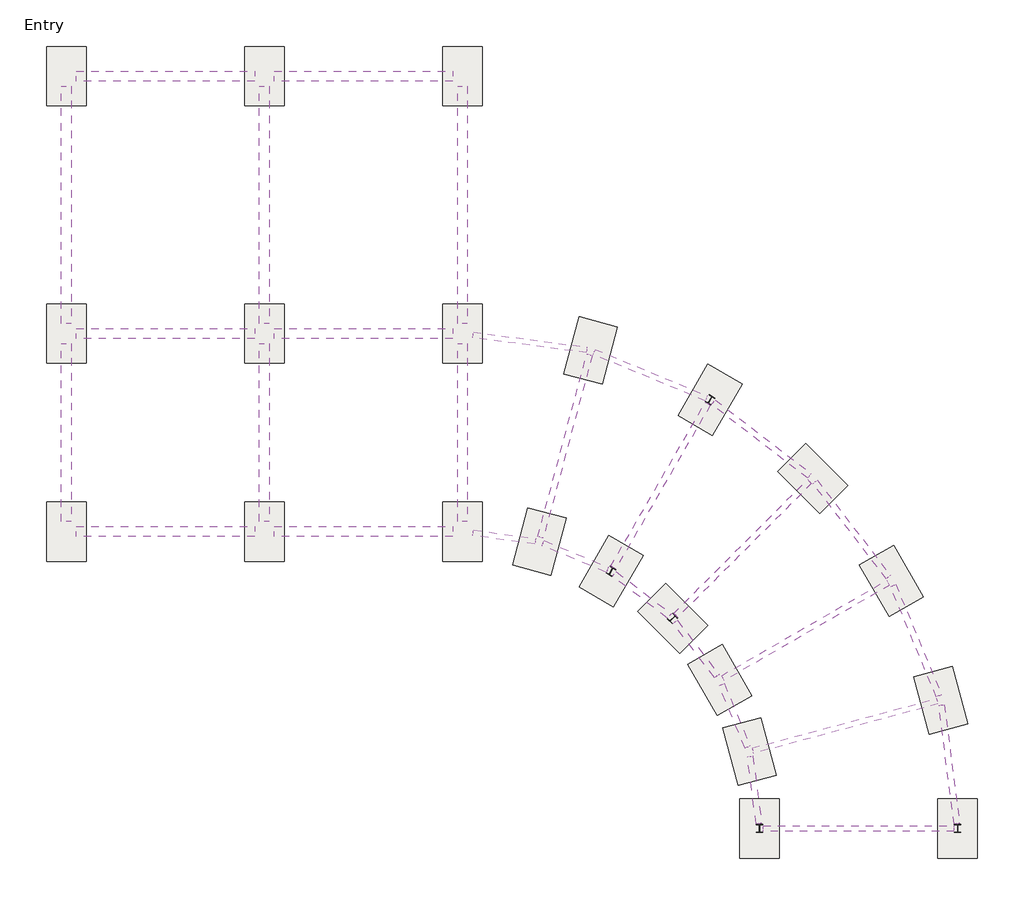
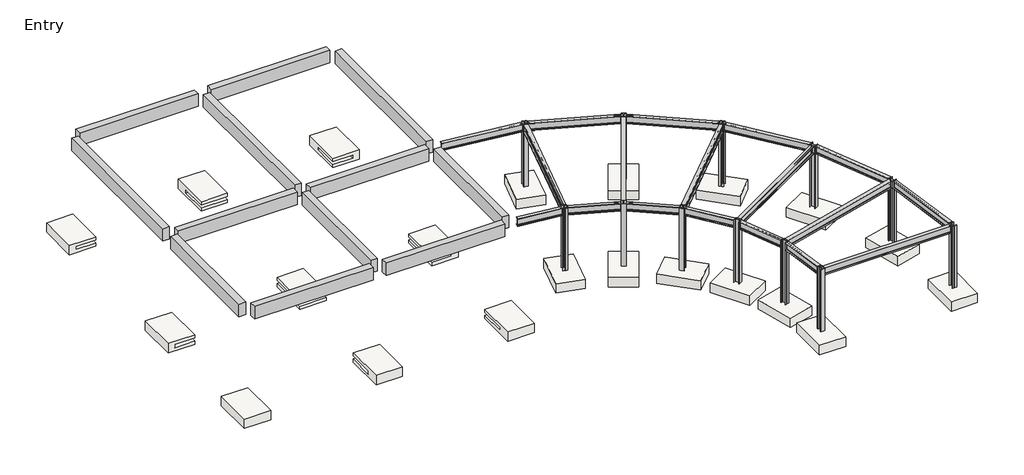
# One storey: 30 beams, 21 slabs, 12 columns.
"""IFC4 building model written with IfcOpenShell, lengths in millimetres."""

from ifc_helpers import new_model, si_unit, frame, origin, place, context, project, spatial, polyline, outline, extrude, faceted_brep, transform, mapped, element, save
from components import w_wide_flange_w14x30_b7c3a9b2, w_wide_flange_w14x30_3b0c1dc8, w_wide_flange_w14x30_f0d42ab2, w_wide_flange_w14x30_385d032e, w_wide_flange_w14x30_0234fe31, w_wide_flange_w14x30_92f4828e, w_wide_flange_w14x30_eb91477c, w_wide_flange_w14x30_84f72a9a, w_wide_flange_w14x30_4e58539d, w_wide_flange_w14x30_c5cff1d2, w_wide_flange_column_w10x33_7f7bc32a, slab_5ba74754

model = new_model("IFC4")

# Units and contexts
model_context = context("Model", 3, world=origin())
ifc_project = project(units=[si_unit("LENGTHUNIT", "METRE", prefix="MILLI")], contexts=[model_context])

# Site, building, storey
site = spatial("IfcSite", under=ifc_project)
building = spatial("IfcBuilding", under=site)
storey = spatial("IfcBuildingStorey", under=building, Name="Entry", Elevation=0.0)

# Beams
placement = place(None, origin())
element("IfcBeam", 1, ObjectType="Concrete-Rectangular Beam : 12 x 24", at=placement, inside=storey, context=model_context, shape_type="SweptSolid", body=[
    extrude(outline(polyline([(-28959.8783408, 12579.4963551), (-28959.8783408, 12274.6963551), (-34446.2783408, 12274.6963551), (-34446.2783408, 12579.4963551), (-28959.8783408, 12579.4963551)])), frame((0.0, 0.0, 2438.4), z_axis=(0.0, 0.0, 1.0), x_axis=(1.0, 0.0, 0.0)), (0.0, 0.0, 1.0), 609.6),
])
element("IfcBeam", 2, ObjectType="Concrete-Rectangular Beam : 12 x 24", at=placement, inside=storey, context=model_context, shape_type="SweptSolid", body=[
    extrude(outline(polyline([(-35055.8783408, 12579.4963551), (-35055.8783408, 12274.6963551), (-40542.2783408, 12274.6963551), (-40542.2783408, 12579.4963551), (-35055.8783408, 12579.4963551)])), frame((0.0, 0.0, 2438.4), z_axis=(0.0, 0.0, 1.0), x_axis=(1.0, 0.0, 0.0)), (0.0, 0.0, 1.0), 609.6),
])
element("IfcBeam", 3, ObjectType="Concrete-Rectangular Beam : 12 x 24", at=placement, inside=storey, context=model_context, shape_type="SweptSolid", body=[
    extrude(outline(polyline([(-40694.6783408, 4807.0963551), (-40999.4783408, 4807.0963551), (-40999.4783408, 12122.2963551), (-40694.6783408, 12122.2963551), (-40694.6783408, 4807.0963551)])), frame((0.0, 0.0, 2438.4), z_axis=(0.0, 0.0, 1.0), x_axis=(1.0, 0.0, 0.0)), (0.0, 0.0, 1.0), 609.6),
])
element("IfcBeam", 4, ObjectType="Concrete-Rectangular Beam : 12 x 24", at=placement, inside=storey, context=model_context, shape_type="SweptSolid", body=[
    extrude(outline(polyline([(-40999.4783408, 4197.4963551), (-40694.6783408, 4197.4963551), (-40694.6783408, -1288.9036449), (-40999.4783408, -1288.9036449), (-40999.4783408, 4197.4963551)])), frame((0.0, 0.0, 2438.4), z_axis=(0.0, 0.0, 1.0), x_axis=(1.0, 0.0, 0.0)), (0.0, 0.0, 1.0), 609.6),
])
element("IfcBeam", 5, ObjectType="Concrete-Rectangular Beam : 12 x 24", at=placement, inside=storey, context=model_context, shape_type="SweptSolid", body=[
    extrude(outline(polyline([(-28959.8783408, -1441.3036449), (-28959.8783408, -1746.1036449), (-34446.2783408, -1746.1036449), (-34446.2783408, -1441.3036449), (-28959.8783408, -1441.3036449)])), frame((0.0, 0.0, 2438.4), z_axis=(0.0, 0.0, 1.0), x_axis=(1.0, 0.0, 0.0)), (0.0, 0.0, 1.0), 609.6),
])
element("IfcBeam", 6, ObjectType="Concrete-Rectangular Beam : 12 x 24", at=placement, inside=storey, context=model_context, shape_type="SweptSolid", body=[
    extrude(outline(polyline([(-35055.8783408, -1441.3036449), (-35055.8783408, -1746.1036449), (-40542.2783408, -1746.1036449), (-40542.2783408, -1441.3036449), (-35055.8783408, -1441.3036449)])), frame((0.0, 0.0, 2438.4), z_axis=(0.0, 0.0, 1.0), x_axis=(1.0, 0.0, 0.0)), (0.0, 0.0, 1.0), 609.6),
])
element("IfcBeam", 7, ObjectType="Concrete-Rectangular Beam : 12 x 24", at=placement, inside=storey, context=model_context, shape_type="SweptSolid", body=[
    extrude(outline(polyline([(-28807.4783408, 4197.4963551), (-28502.6783408, 4197.4963551), (-28502.6783408, -1288.9036449), (-28807.4783408, -1288.9036449), (-28807.4783408, 4197.4963551)])), frame((0.0, 0.0, 2438.4), z_axis=(0.0, 0.0, 1.0), x_axis=(1.0, 0.0, 0.0)), (0.0, 0.0, 1.0), 609.6),
])
element("IfcBeam", 8, ObjectType="Concrete-Rectangular Beam : 12 x 24", at=placement, inside=storey, context=model_context, shape_type="SweptSolid", body=[
    extrude(outline(polyline([(-28502.6783408, 4807.0963551), (-28807.4783408, 4807.0963551), (-28807.4783408, 12122.2963551), (-28502.6783408, 12122.2963551), (-28502.6783408, 4807.0963551)])), frame((0.0, 0.0, 2438.4), z_axis=(0.0, 0.0, 1.0), x_axis=(1.0, 0.0, 0.0)), (0.0, 0.0, 1.0), 609.6),
])
element("IfcBeam", 9, ObjectType="Concrete-Rectangular Beam : 12 x 24", at=placement, inside=storey, context=model_context, shape_type="SweptSolid", body=[
    extrude(outline(polyline([(-28959.8783408, 4654.6963551), (-28959.8783408, 4349.8963551), (-34446.2783408, 4349.8963551), (-34446.2783408, 4654.6963551), (-28959.8783408, 4654.6963551)])), frame((0.0, 0.0, 2438.4), z_axis=(0.0, 0.0, 1.0), x_axis=(1.0, 0.0, 0.0)), (0.0, 0.0, 1.0), 609.6),
])
element("IfcBeam", 10, ObjectType="Concrete-Rectangular Beam : 12 x 24", at=placement, inside=storey, context=model_context, shape_type="SweptSolid", body=[
    extrude(outline(polyline([(-35055.8783408, 4654.6963551), (-35055.8783408, 4349.8963551), (-40542.2783408, 4349.8963551), (-40542.2783408, 4654.6963551), (-35055.8783408, 4654.6963551)])), frame((0.0, 0.0, 2438.4), z_axis=(0.0, 0.0, 1.0), x_axis=(1.0, 0.0, 0.0)), (0.0, 0.0, 1.0), 609.6),
])
element("IfcBeam", 11, ObjectType="Concrete-Rectangular Beam : 12 x 24", at=placement, inside=storey, context=model_context, shape_type="SweptSolid", body=[
    extrude(outline(polyline([(-34598.6783408, 4807.0963551), (-34903.4783408, 4807.0963551), (-34903.4783408, 12122.2963551), (-34598.6783408, 12122.2963551), (-34598.6783408, 4807.0963551)])), frame((0.0, 0.0, 2438.4), z_axis=(0.0, 0.0, 1.0), x_axis=(1.0, 0.0, 0.0)), (0.0, 0.0, 1.0), 609.6),
])
element("IfcBeam", 12, ObjectType="Concrete-Rectangular Beam : 12 x 24", at=placement, inside=storey, context=model_context, shape_type="SweptSolid", body=[
    extrude(outline(polyline([(-34903.4783408, 4197.4963551), (-34598.6783408, 4197.4963551), (-34598.6783408, -1288.9036449), (-34903.4783408, -1288.9036449), (-34903.4783408, 4197.4963551)])), frame((0.0, 0.0, 2438.4), z_axis=(0.0, 0.0, 1.0), x_axis=(1.0, 0.0, 0.0)), (0.0, 0.0, 1.0), 609.6),
])
w_wide_flange_w14x30_shape = w_wide_flange_w14x30_b7c3a9b2(model_context)
element("IfcBeam", 13, ObjectType="W-Wide Flange : W14X30", at=placement, inside=storey, context=model_context, shape_type="MappedRepresentation", body=[
    mapped(w_wide_flange_w14x30_shape, transform((-25499.5565429, 1038.8640292, 2872.2339844), x_axis=(0.258819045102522, 0.965925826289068, 0.0), y_axis=(-0.965925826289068, 0.258819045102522, 0.0), z_axis=(0.0, 0.0, 1.0))),
])
element("IfcBeam", 14, ObjectType="W-Wide Flange : W14X30", at=placement, inside=storey, context=model_context, shape_type="MappedRepresentation", body=[
    mapped(w_wide_flange_w14x30_shape, transform((-20034.0324646, -2116.6577687, 2872.2339844), x_axis=(0.7071067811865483, 0.7071067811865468, 0.0), y_axis=(-0.7071067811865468, 0.7071067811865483, 0.0), z_axis=(0.0, 0.0, 1.0))),
])
element("IfcBeam", 15, ObjectType="W-Wide Flange : W14X30", at=placement, inside=storey, context=model_context, shape_type="MappedRepresentation", body=[
    mapped(w_wide_flange_w14x30_shape, transform((-22559.0783408, -179.121922, 2872.2339844), x_axis=(0.5000000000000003, 0.8660254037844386, 0.0), y_axis=(-0.8660254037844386, 0.5000000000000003, 0.0), z_axis=(0.0, 0.0, 1.0))),
])
w_wide_flange_w14x30_2_shape = w_wide_flange_w14x30_3b0c1dc8(model_context)
element("IfcBeam", 16, ObjectType="W-Wide Flange : W14X30", at=placement, inside=storey, context=model_context, shape_type="MappedRepresentation", body=[
    mapped(w_wide_flange_w14x30_2_shape, transform((-26682.8772171, 4242.6511514, 2872.2339844), x_axis=(0.991444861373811, -0.13052619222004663, 0.0), y_axis=(0.13052619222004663, 0.991444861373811, 0.0), z_axis=(0.0, 0.0, 1.0))),
])
w_wide_flange_w14x30_3_shape = w_wide_flange_w14x30_f0d42ab2(model_context)
element("IfcBeam", 17, ObjectType="W-Wide Flange : W14X30", at=placement, inside=storey, context=model_context, shape_type="MappedRepresentation", body=[
    mapped(w_wide_flange_w14x30_3_shape, transform((-22872.8772171, 3221.7647282, 2872.2339844), x_axis=(0.923879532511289, -0.3826834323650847, 0.0), y_axis=(0.3826834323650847, 0.923879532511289, 0.0), z_axis=(0.0, 0.0, 1.0))),
])
element("IfcBeam", 18, ObjectType="W-Wide Flange : W14X30", at=placement, inside=storey, context=model_context, shape_type="MappedRepresentation", body=[
    mapped(w_wide_flange_w14x30_3_shape, transform((-19456.9246682, 1249.5636046, 2872.2339844), x_axis=(0.7933533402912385, -0.6087614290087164, 0.0), y_axis=(0.6087614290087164, 0.7933533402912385, 0.0), z_axis=(0.0, 0.0, 1.0))),
])
w_wide_flange_w14x30_4_shape = w_wide_flange_w14x30_385d032e(model_context)
element("IfcBeam", 19, ObjectType="W-Wide Flange : W14X30", at=placement, inside=storey, context=model_context, shape_type="MappedRepresentation", body=[
    mapped(w_wide_flange_w14x30_4_shape, transform((-16667.8110913, -1539.5499723, 2872.2339844), x_axis=(0.6087614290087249, -0.7933533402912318, 0.0), y_axis=(0.7933533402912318, 0.6087614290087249, 0.0), z_axis=(0.0, 0.0, 1.0))),
])
w_wide_flange_w14x30_5_shape = w_wide_flange_w14x30_0234fe31(model_context)
element("IfcBeam", 20, ObjectType="W-Wide Flange : W14X30", at=placement, inside=storey, context=model_context, shape_type="MappedRepresentation", body=[
    mapped(w_wide_flange_w14x30_5_shape, transform((-14695.6099677, -4955.5025212, 2872.2339844), x_axis=(0.3826834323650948, -0.9238795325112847, 0.0), y_axis=(0.9238795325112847, 0.3826834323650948, 0.0), z_axis=(0.0, 0.0, 1.0))),
])
element("IfcBeam", 21, ObjectType="W-Wide Flange : W14X30", at=placement, inside=storey, context=model_context, shape_type="MappedRepresentation", body=[
    mapped(w_wide_flange_w14x30_5_shape, transform((-13674.7235445, -8765.5025212, 2872.2339844), x_axis=(0.13052619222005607, -0.9914448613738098, 0.0), y_axis=(0.9914448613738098, 0.13052619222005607, 0.0), z_axis=(0.0, 0.0, 1.0))),
])
w_wide_flange_w14x30_6_shape = w_wide_flange_w14x30_92f4828e(model_context)
element("IfcBeam", 22, ObjectType="W-Wide Flange : W14X30", at=placement, inside=storey, context=model_context, shape_type="MappedRepresentation", body=[
    mapped(w_wide_flange_w14x30_6_shape, transform((-27471.7576666, -1749.4907671, 2872.2339844), x_axis=(0.9914448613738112, -0.13052619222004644, 0.0), y_axis=(0.13052619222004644, 0.9914448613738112, 0.0), z_axis=(0.0, 0.0, 1.0))),
])
w_wide_flange_w14x30_7_shape = w_wide_flange_w14x30_eb91477c(model_context)
element("IfcBeam", 23, ObjectType="W-Wide Flange : W14X30", at=placement, inside=storey, context=model_context, shape_type="MappedRepresentation", body=[
    mapped(w_wide_flange_w14x30_7_shape, transform((-25185.7576666, -2362.022621, 2872.2339844), x_axis=(0.9238795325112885, -0.38268343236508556, 0.0), y_axis=(0.38268343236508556, 0.9238795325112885, 0.0), z_axis=(0.0, 0.0, 1.0))),
])
element("IfcBeam", 24, ObjectType="W-Wide Flange : W14X30", at=placement, inside=storey, context=model_context, shape_type="MappedRepresentation", body=[
    mapped(w_wide_flange_w14x30_7_shape, transform((-23136.1861372, -3545.3432952, 2872.2339844), x_axis=(0.7933533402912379, -0.6087614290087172, 0.0), y_axis=(0.6087614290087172, 0.7933533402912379, 0.0), z_axis=(0.0, 0.0, 1.0))),
])
w_wide_flange_w14x30_8_shape = w_wide_flange_w14x30_84f72a9a(model_context)
element("IfcBeam", 25, ObjectType="W-Wide Flange : W14X30", at=placement, inside=storey, context=model_context, shape_type="MappedRepresentation", body=[
    mapped(w_wide_flange_w14x30_8_shape, transform((-21462.7179911, -5218.8114413, 2872.2339844), x_axis=(0.6087614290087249, -0.793353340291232, 0.0), y_axis=(0.793353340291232, 0.6087614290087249, 0.0), z_axis=(0.0, 0.0, 1.0))),
])
w_wide_flange_w14x30_9_shape = w_wide_flange_w14x30_4e58539d(model_context)
element("IfcBeam", 26, ObjectType="W-Wide Flange : W14X30", at=placement, inside=storey, context=model_context, shape_type="MappedRepresentation", body=[
    mapped(w_wide_flange_w14x30_9_shape, transform((-20279.3973169, -7268.3829707, 2872.2339844), x_axis=(0.3826834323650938, -0.9238795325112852, 0.0), y_axis=(0.9238795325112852, 0.3826834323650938, 0.0), z_axis=(0.0, 0.0, 1.0))),
])
element("IfcBeam", 27, ObjectType="W-Wide Flange : W14X30", at=placement, inside=storey, context=model_context, shape_type="MappedRepresentation", body=[
    mapped(w_wide_flange_w14x30_9_shape, transform((-19666.865463, -9554.3829707, 2872.2339844), x_axis=(0.13052619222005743, -0.9914448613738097, 0.0), y_axis=(0.9914448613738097, 0.13052619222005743, 0.0), z_axis=(0.0, 0.0, 1.0))),
])
w_wide_flange_w14x30_10_shape = w_wide_flange_w14x30_c5cff1d2(model_context)
element("IfcBeam", 28, ObjectType="W-Wide Flange : W14X30", at=placement, inside=storey, context=model_context, shape_type="MappedRepresentation", body=[
    mapped(w_wide_flange_w14x30_10_shape, transform((-16878.5106667, -7582.181847, 2872.2339844), x_axis=(0.9659258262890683, 0.2588190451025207, 0.0), y_axis=(-0.2588190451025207, 0.9659258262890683, 0.0), z_axis=(0.0, 0.0, 1.0))),
])
element("IfcBeam", 29, ObjectType="W-Wide Flange : W14X30", at=placement, inside=storey, context=model_context, shape_type="MappedRepresentation", body=[
    mapped(w_wide_flange_w14x30_10_shape, transform((-18096.4966179, -4641.7036449, 2872.2339844), x_axis=(0.8660254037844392, 0.4999999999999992, 0.0), y_axis=(-0.4999999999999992, 0.8660254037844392, 0.0), z_axis=(0.0, 0.0, 1.0))),
])
element("IfcBeam", 30, ObjectType="W-Wide Flange : W14X30", at=placement, inside=storey, context=model_context, shape_type="MappedRepresentation", body=[
    mapped(w_wide_flange_w14x30_10_shape, transform((-16463.0783408, -10737.7036449, 2872.2339844), x_axis=(1.0, 0.0, 0.0), y_axis=(0.0, 1.0, 0.0), z_axis=(0.0, 0.0, 1.0))),
])

# Columns
w_wide_flange_column_w10x33_shape = w_wide_flange_column_w10x33_7f7bc32a(model_context)
element("IfcColumn", 31, ObjectType="W-Wide Flange-Column : W10X33", at=placement, inside=storey, context=model_context, shape_type="MappedRepresentation", body=[
    mapped(w_wide_flange_column_w10x33_shape, transform((-19511.0783408, -10737.7036449, 0.0), x_axis=(1.0, 0.0, 0.0), y_axis=(0.0, 1.0, 0.0), z_axis=(0.0, 0.0, 1.0))),
])
element("IfcColumn", 32, ObjectType="W-Wide Flange-Column : W10X33", at=placement, inside=storey, context=model_context, shape_type="MappedRepresentation", body=[
    mapped(w_wide_flange_column_w10x33_shape, transform((-13415.0783408, -10737.7036449, 0.0), x_axis=(1.0, 0.0, 0.0), y_axis=(0.0, 1.0, 0.0), z_axis=(0.0, 0.0, 1.0))),
])
element("IfcColumn", 33, ObjectType="W-Wide Flange-Column : W10X33", at=placement, inside=storey, context=model_context, shape_type="MappedRepresentation", body=[
    mapped(w_wide_flange_column_w10x33_shape, transform((-19822.6525852, -8371.0622965, 0.0), x_axis=(0.9659258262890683, 0.25881904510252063, 0.0), y_axis=(-0.25881904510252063, 0.9659258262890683, 0.0), z_axis=(0.0, 0.0, 1.0))),
])
element("IfcColumn", 34, ObjectType="W-Wide Flange-Column : W10X33", at=placement, inside=storey, context=model_context, shape_type="MappedRepresentation", body=[
    mapped(w_wide_flange_column_w10x33_shape, transform((-13934.3687482, -6793.3013975, 0.0), x_axis=(0.9659258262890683, 0.25881904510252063, 0.0), y_axis=(-0.25881904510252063, 0.9659258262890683, 0.0), z_axis=(0.0, 0.0, 1.0))),
])
element("IfcColumn", 35, ObjectType="W-Wide Flange-Column : W10X33", at=placement, inside=storey, context=model_context, shape_type="MappedRepresentation", body=[
    mapped(w_wide_flange_column_w10x33_shape, transform((-20736.1420486, -6165.7036449, 0.0), x_axis=(0.866025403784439, 0.49999999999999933, 0.0), y_axis=(-0.49999999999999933, 0.866025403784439, 0.0), z_axis=(0.0, 0.0, 1.0))),
])
element("IfcColumn", 36, ObjectType="W-Wide Flange-Column : W10X33", at=placement, inside=storey, context=model_context, shape_type="MappedRepresentation", body=[
    mapped(w_wide_flange_column_w10x33_shape, transform((-15456.8511871, -3117.7036449, 0.0), x_axis=(0.866025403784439, 0.49999999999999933, 0.0), y_axis=(-0.49999999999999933, 0.866025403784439, 0.0), z_axis=(0.0, 0.0, 1.0))),
])
element("IfcColumn", 37, ObjectType="W-Wide Flange-Column : W10X33", at=placement, inside=storey, context=model_context, shape_type="MappedRepresentation", body=[
    mapped(w_wide_flange_column_w10x33_shape, transform((-22189.2939336, -4271.9192377, 0.0), x_axis=(0.7071067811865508, -0.7071067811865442, 0.0), y_axis=(0.7071067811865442, 0.7071067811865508, 0.0), z_axis=(0.0, 0.0, 1.0))),
])
element("IfcColumn", 38, ObjectType="W-Wide Flange-Column : W10X33", at=placement, inside=storey, context=model_context, shape_type="MappedRepresentation", body=[
    mapped(w_wide_flange_column_w10x33_shape, transform((-17878.7709955, 38.6037004, 0.0), x_axis=(0.7071067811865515, -0.7071067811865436, 0.0), y_axis=(0.7071067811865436, 0.7071067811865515, 0.0), z_axis=(0.0, 0.0, 1.0))),
])
element("IfcColumn", 39, ObjectType="W-Wide Flange-Column : W10X33", at=placement, inside=storey, context=model_context, shape_type="MappedRepresentation", body=[
    mapped(w_wide_flange_column_w10x33_shape, transform((-24083.0783408, -2818.7673527, 0.0), x_axis=(0.8660254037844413, -0.49999999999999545, 0.0), y_axis=(0.49999999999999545, 0.8660254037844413, 0.0), z_axis=(0.0, 0.0, 1.0))),
])
element("IfcColumn", 40, ObjectType="W-Wide Flange-Column : W10X33", at=placement, inside=storey, context=model_context, shape_type="MappedRepresentation", body=[
    mapped(w_wide_flange_column_w10x33_shape, transform((-21035.0783408, 2460.5235088, 0.0), x_axis=(0.8660254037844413, -0.49999999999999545, 0.0), y_axis=(0.49999999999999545, 0.8660254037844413, 0.0), z_axis=(0.0, 0.0, 1.0))),
])
element("IfcColumn", 41, ObjectType="W-Wide Flange-Column : W10X33", at=placement, inside=storey, context=model_context, shape_type="MappedRepresentation", body=[
    mapped(w_wide_flange_column_w10x33_shape, transform((-26288.4369924, -1905.2778893, 0.0), x_axis=(0.9659258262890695, -0.258819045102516, 0.0), y_axis=(0.258819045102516, 0.9659258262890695, 0.0), z_axis=(0.0, 0.0, 1.0))),
])
element("IfcColumn", 42, ObjectType="W-Wide Flange-Column : W10X33", at=placement, inside=storey, context=model_context, shape_type="MappedRepresentation", body=[
    mapped(w_wide_flange_column_w10x33_shape, transform((-24710.6760935, 3983.0059477, 0.0), x_axis=(0.9659258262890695, -0.258819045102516, 0.0), y_axis=(0.258819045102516, 0.9659258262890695, 0.0), z_axis=(0.0, 0.0, 1.0))),
])

# Slabs
element("IfcSlab", 43, ObjectType="Footing-Rectangular : 72\" x 48\" x 18\"", at=placement, inside=storey, context=model_context, shape_type="SweptSolid", body=[
    extrude(outline(polyline([(11512.6963551, -1676.4), (13341.4963551, -1676.4), (13341.4963551, -2133.6), (11512.6963551, -2133.6), (11512.6963551, -1981.2), (12731.8963551, -1981.2), (12731.8963551, -1828.8), (11512.6963551, -1828.8), (11512.6963551, -1676.4)])), frame((-35360.6783408, 0.0, 0.0), z_axis=(1.0, 0.0, 0.0), x_axis=(0.0, 1.0, 0.0)), (0.0, 0.0, 1.0), 1219.2),
])
element("IfcSlab", 44, ObjectType="Footing-Rectangular : 72\" x 48\" x 18\"", at=placement, inside=storey, context=model_context, shape_type="Brep", body=[
    faceted_brep([(-28045.4783408, -679.3036449, -1676.4), (-29264.6783408, -679.3036449, -1676.4), (-29264.6783408, -2508.1036449, -1676.4), (-28045.4783408, -2508.1036449, -1676.4), (-28045.4783408, -679.3036449, -2133.6), (-28045.4783408, -2508.1036449, -2133.6), (-29264.6783408, -2508.1036449, -2133.6), (-29264.6783408, -679.3036449, -2133.6), (-29264.6783408, -679.3036449, -1981.2), (-28350.2783408, -679.3036449, -1981.2), (-28350.2783408, -679.3036449, -1828.8), (-29264.6783408, -679.3036449, -1828.8), (-29264.6783408, -1898.5036449, -1828.8), (-29264.6783408, -1898.5036449, -1981.2), (-28350.2783408, -1898.5036449, -1981.2), (-28350.2783408, -1898.5036449, -1828.8)], [[[0, 1, 2, 3]], [[4, 5, 6, 7]], [[1, 0, 4, 7, 8, 9, 10, 11]], [[2, 1, 11, 12, 13, 8, 7, 6]], [[3, 2, 6, 5]], [[0, 3, 5, 4]], [[13, 14, 9, 8]], [[10, 15, 12, 11]], [[14, 15, 10, 9]], [[15, 14, 13, 12]]]),
])
element("IfcSlab", 45, ObjectType="Footing-Rectangular : 72\" x 48\" x 18\"", at=placement, inside=storey, context=model_context, shape_type="SweptSolid", body=[
    extrude(outline(polyline([(-1676.4, -28045.4783408), (-1676.4, -29264.6783408), (-1828.8, -29264.6783408), (-1828.8, -28350.2783408), (-1981.2, -28350.2783408), (-1981.2, -29264.6783408), (-2133.6, -29264.6783408), (-2133.6, -28045.4783408), (-1676.4, -28045.4783408)])), frame((0.0, 3587.8963551, 0.0), z_axis=(0.0, 1.0, 0.0), x_axis=(0.0, 0.0, 1.0)), (0.0, 0.0, 1.0), 1828.8),
])
element("IfcSlab", 46, ObjectType="Footing-Rectangular : 72\" x 48\" x 18\"", at=placement, inside=storey, context=model_context, shape_type="Brep", body=[
    faceted_brep([(-29264.6783408, 11512.6963551, -1676.4), (-28045.4783408, 11512.6963551, -1676.4), (-28045.4783408, 13341.4963551, -1676.4), (-29264.6783408, 13341.4963551, -1676.4), (-29264.6783408, 11512.6963551, -2133.6), (-29264.6783408, 13341.4963551, -2133.6), (-28045.4783408, 13341.4963551, -2133.6), (-28045.4783408, 11512.6963551, -2133.6), (-29264.6783408, 11512.6963551, -1828.8), (-28350.2783408, 11512.6963551, -1828.8), (-28350.2783408, 11512.6963551, -1981.2), (-29264.6783408, 11512.6963551, -1981.2), (-29264.6783408, 12731.8963551, -1981.2), (-29264.6783408, 12731.8963551, -1828.8), (-28350.2783408, 12731.8963551, -1981.2), (-28350.2783408, 12731.8963551, -1828.8)], [[[0, 1, 2, 3]], [[4, 5, 6, 7]], [[1, 0, 8, 9, 10, 11, 4, 7]], [[2, 1, 7, 6]], [[3, 2, 6, 5]], [[0, 3, 5, 4, 11, 12, 13, 8]], [[14, 12, 11, 10]], [[15, 9, 8, 13]], [[15, 14, 10, 9]], [[14, 15, 13, 12]]]),
])
element("IfcSlab", 47, ObjectType="Footing-Rectangular : 72\" x 48\" x 18\"", at=placement, inside=storey, context=model_context, shape_type="Brep", body=[
    faceted_brep([(-41456.6783408, 11512.6963551, -1676.4), (-40237.4783408, 11512.6963551, -1676.4), (-40237.4783408, 13341.4963551, -1676.4), (-41456.6783408, 13341.4963551, -1676.4), (-41456.6783408, 11512.6963551, -2133.6), (-41456.6783408, 13341.4963551, -2133.6), (-40237.4783408, 13341.4963551, -2133.6), (-40237.4783408, 11512.6963551, -2133.6), (-40237.4783408, 11512.6963551, -1981.2), (-41151.8783408, 11512.6963551, -1981.2), (-41151.8783408, 11512.6963551, -1828.8), (-40237.4783408, 11512.6963551, -1828.8), (-40237.4783408, 12731.8963551, -1828.8), (-40237.4783408, 12731.8963551, -1981.2), (-41151.8783408, 12731.8963551, -1981.2), (-41151.8783408, 12731.8963551, -1828.8)], [[[0, 1, 2, 3]], [[4, 5, 6, 7]], [[1, 0, 4, 7, 8, 9, 10, 11]], [[2, 1, 11, 12, 13, 8, 7, 6]], [[3, 2, 6, 5]], [[0, 3, 5, 4]], [[13, 14, 9, 8]], [[10, 15, 12, 11]], [[14, 15, 10, 9]], [[15, 14, 13, 12]]]),
])
element("IfcSlab", 48, ObjectType="Footing-Rectangular : 72\" x 48\" x 18\"", at=placement, inside=storey, context=model_context, shape_type="SweptSolid", body=[
    extrude(outline(polyline([(-2508.1036449, -1676.4), (-679.3036449, -1676.4), (-679.3036449, -1828.8), (-1898.5036449, -1828.8), (-1898.5036449, -1981.2), (-679.3036449, -1981.2), (-679.3036449, -2133.6), (-2508.1036449, -2133.6), (-2508.1036449, -1676.4)])), frame((-35360.6783408, 0.0, 0.0), z_axis=(1.0, 0.0, 0.0), x_axis=(0.0, 1.0, 0.0)), (0.0, 0.0, 1.0), 1219.2),
])
element("IfcSlab", 49, ObjectType="Footing-Rectangular : 72\" x 48\" x 18\"", at=placement, inside=storey, context=model_context, shape_type="Brep", body=[
    faceted_brep([(-41456.6783408, -2508.1036449, -1676.4), (-40237.4783408, -2508.1036449, -1676.4), (-40237.4783408, -679.3036449, -1676.4), (-41456.6783408, -679.3036449, -1676.4), (-41456.6783408, -2508.1036449, -2133.6), (-41456.6783408, -679.3036449, -2133.6), (-40237.4783408, -679.3036449, -2133.6), (-40237.4783408, -2508.1036449, -2133.6), (-40237.4783408, -679.3036449, -1981.2), (-40237.4783408, -1898.5036449, -1981.2), (-40237.4783408, -1898.5036449, -1828.8), (-40237.4783408, -679.3036449, -1828.8), (-41151.8783408, -679.3036449, -1828.8), (-41151.8783408, -679.3036449, -1981.2), (-41151.8783408, -1898.5036449, -1981.2), (-41151.8783408, -1898.5036449, -1828.8)], [[[0, 1, 2, 3]], [[4, 5, 6, 7]], [[1, 0, 4, 7]], [[2, 1, 7, 6, 8, 9, 10, 11]], [[3, 2, 11, 12, 13, 8, 6, 5]], [[0, 3, 5, 4]], [[13, 14, 9, 8]], [[10, 15, 12, 11]], [[14, 15, 10, 9]], [[15, 14, 13, 12]]]),
])
element("IfcSlab", 50, ObjectType="Footing-Rectangular : 72\" x 48\" x 18\"", at=placement, inside=storey, context=model_context, shape_type="SweptSolid", body=[
    extrude(outline(polyline([(-34141.4783408, 3587.8963551), (-35360.6783408, 3587.8963551), (-35360.6783408, 5416.6963551), (-34141.4783408, 5416.6963551), (-34141.4783408, 3587.8963551)])), frame((0.0, 0.0, -1828.8), z_axis=(0.0, 0.0, 1.0), x_axis=(1.0, 0.0, 0.0)), (0.0, 0.0, 1.0), 152.4),
    extrude(outline(polyline([(-35360.6783408, 3587.8963551), (-35360.6783408, 5416.6963551), (-34141.4783408, 5416.6963551), (-34141.4783408, 3587.8963551), (-35360.6783408, 3587.8963551)])), frame((0.0, 0.0, -2133.6), z_axis=(0.0, 0.0, 1.0), x_axis=(1.0, 0.0, 0.0)), (0.0, 0.0, 1.0), 152.4),
])
element("IfcSlab", 51, ObjectType="Footing-Rectangular : 72\" x 48\" x 18\"", at=placement, inside=storey, context=model_context, shape_type="SweptSolid", body=[
    extrude(outline(polyline([(-1676.4, -40237.4783408), (-1676.4, -41456.6783408), (-2133.6, -41456.6783408), (-2133.6, -40237.4783408), (-1981.2, -40237.4783408), (-1981.2, -41151.8783408), (-1828.8, -41151.8783408), (-1828.8, -40237.4783408), (-1676.4, -40237.4783408)])), frame((0.0, 3587.8963551, 0.0), z_axis=(0.0, 1.0, 0.0), x_axis=(0.0, 0.0, 1.0)), (0.0, 0.0, 1.0), 1828.8),
])
slab_shape = slab_5ba74754(model_context)
element("IfcSlab", 52, ObjectType="Footing-Rectangular : 72\" x 48\" x 18\"", at=placement, inside=storey, context=model_context, shape_type="MappedRepresentation", body=[
    mapped(slab_shape, transform((-19511.0783408, -10737.7036449, 0.0), x_axis=(1.0, 0.0, 0.0), y_axis=(0.0, 1.0, 0.0), z_axis=(0.0, 0.0, 1.0))),
])
element("IfcSlab", 53, ObjectType="Footing-Rectangular : 72\" x 48\" x 18\"", at=placement, inside=storey, context=model_context, shape_type="MappedRepresentation", body=[
    mapped(slab_shape, transform((-19822.6525852, -8371.0622965, 0.0), x_axis=(0.9659258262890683, 0.25881904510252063, 0.0), y_axis=(-0.25881904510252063, 0.9659258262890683, 0.0), z_axis=(0.0, 0.0, 1.0))),
])
element("IfcSlab", 54, ObjectType="Footing-Rectangular : 72\" x 48\" x 18\"", at=placement, inside=storey, context=model_context, shape_type="MappedRepresentation", body=[
    mapped(slab_shape, transform((-20736.1420486, -6165.7036449, 0.0), x_axis=(0.866025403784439, 0.49999999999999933, 0.0), y_axis=(-0.49999999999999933, 0.866025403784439, 0.0), z_axis=(0.0, 0.0, 1.0))),
])
element("IfcSlab", 55, ObjectType="Footing-Rectangular : 72\" x 48\" x 18\"", at=placement, inside=storey, context=model_context, shape_type="MappedRepresentation", body=[
    mapped(slab_shape, transform((-22189.2939336, -4271.9192377, 0.0), x_axis=(0.7071067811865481, 0.7071067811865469, 0.0), y_axis=(-0.7071067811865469, 0.7071067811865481, 0.0), z_axis=(0.0, 0.0, 1.0))),
])
element("IfcSlab", 56, ObjectType="Footing-Rectangular : 72\" x 48\" x 18\"", at=placement, inside=storey, context=model_context, shape_type="MappedRepresentation", body=[
    mapped(slab_shape, transform((-24083.0783408, -2818.7673527, 0.0), x_axis=(0.8660254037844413, -0.49999999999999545, 0.0), y_axis=(0.49999999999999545, 0.8660254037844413, 0.0), z_axis=(0.0, 0.0, 1.0))),
])
element("IfcSlab", 57, ObjectType="Footing-Rectangular : 72\" x 48\" x 18\"", at=placement, inside=storey, context=model_context, shape_type="MappedRepresentation", body=[
    mapped(slab_shape, transform((-26288.4369924, -1905.2778893, 0.0), x_axis=(0.9659258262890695, -0.258819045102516, 0.0), y_axis=(0.258819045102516, 0.9659258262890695, 0.0), z_axis=(0.0, 0.0, 1.0))),
])
element("IfcSlab", 58, ObjectType="Footing-Rectangular : 72\" x 48\" x 18\"", at=placement, inside=storey, context=model_context, shape_type="MappedRepresentation", body=[
    mapped(slab_shape, transform((-13415.0783408, -10737.7036449, 0.0), x_axis=(1.0, 0.0, 0.0), y_axis=(0.0, 1.0, 0.0), z_axis=(0.0, 0.0, 1.0))),
])
element("IfcSlab", 59, ObjectType="Footing-Rectangular : 72\" x 48\" x 18\"", at=placement, inside=storey, context=model_context, shape_type="MappedRepresentation", body=[
    mapped(slab_shape, transform((-13934.3687482, -6793.3013975, 0.0), x_axis=(0.9659258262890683, 0.25881904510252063, 0.0), y_axis=(-0.25881904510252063, 0.9659258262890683, 0.0), z_axis=(0.0, 0.0, 1.0))),
])
element("IfcSlab", 60, ObjectType="Footing-Rectangular : 72\" x 48\" x 18\"", at=placement, inside=storey, context=model_context, shape_type="MappedRepresentation", body=[
    mapped(slab_shape, transform((-15456.8511871, -3117.7036449, 0.0), x_axis=(0.866025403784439, 0.49999999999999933, 0.0), y_axis=(-0.49999999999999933, 0.866025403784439, 0.0), z_axis=(0.0, 0.0, 1.0))),
])
element("IfcSlab", 61, ObjectType="Footing-Rectangular : 72\" x 48\" x 18\"", at=placement, inside=storey, context=model_context, shape_type="MappedRepresentation", body=[
    mapped(slab_shape, transform((-17878.7709955, 38.6037004, 0.0), x_axis=(0.7071067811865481, 0.7071067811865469, 0.0), y_axis=(-0.7071067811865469, 0.7071067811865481, 0.0), z_axis=(0.0, 0.0, 1.0))),
])
element("IfcSlab", 62, ObjectType="Footing-Rectangular : 72\" x 48\" x 18\"", at=placement, inside=storey, context=model_context, shape_type="MappedRepresentation", body=[
    mapped(slab_shape, transform((-21035.0783408, 2460.5235088, 0.0), x_axis=(0.8660254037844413, -0.49999999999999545, 0.0), y_axis=(0.49999999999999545, 0.8660254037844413, 0.0), z_axis=(0.0, 0.0, 1.0))),
])
element("IfcSlab", 63, ObjectType="Footing-Rectangular : 72\" x 48\" x 18\"", at=placement, inside=storey, context=model_context, shape_type="MappedRepresentation", body=[
    mapped(slab_shape, transform((-24710.6760935, 3983.0059477, 0.0), x_axis=(0.9659258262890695, -0.258819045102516, 0.0), y_axis=(0.258819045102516, 0.9659258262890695, 0.0), z_axis=(0.0, 0.0, 1.0))),
])

save(model, "model.ifc")
